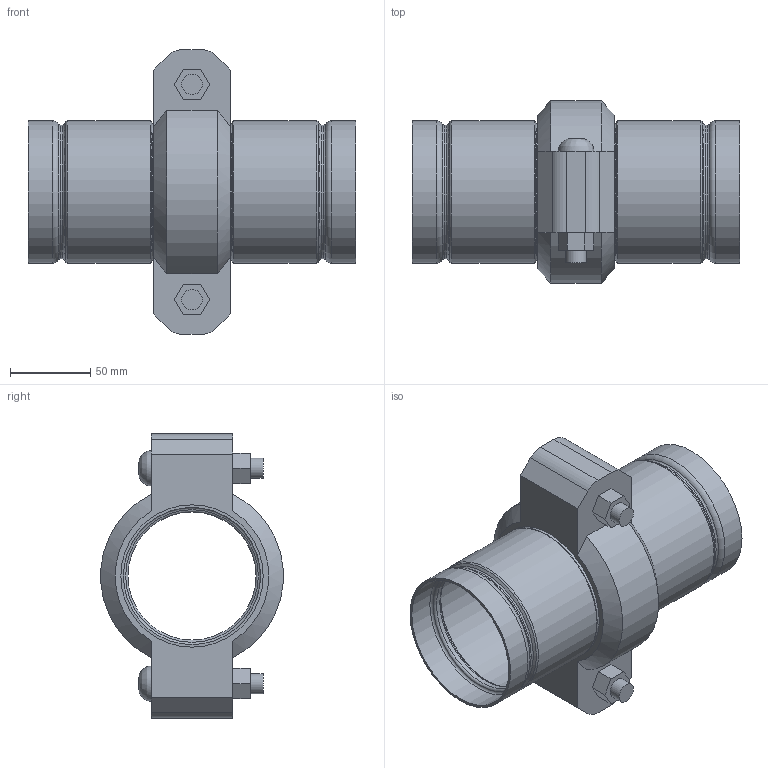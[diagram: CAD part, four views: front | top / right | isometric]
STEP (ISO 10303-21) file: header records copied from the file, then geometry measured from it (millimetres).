
FILE_DESCRIPTION(/* description */ ('VIC STRENGTHIN 100 EXPANSION JOINT 1 COUPLING COMPRESSED STYLE E155 (ST1)','CAx-IF Rec.Pracs.---Representation and Presentation of Product Manufacturing Information (PMI)---4.0---2014-10-13'),/* implementation_level */ '2;1');
FILE_NAME(/* name */ 'C:\Users\Vjadhav\AppData\Roaming\Autodesk\ApplicationPlugins\Victaulic.Temp\A42\Victaulic_SS-StrengThin 100_Expansion Joint_Compressed_1 Coupling_Style E155 (ST1)_3 (80).stp',/* time_stamp */ '2021-07-23T12:24:10+06:00',/* author */ ('kkamble'),/* organization */ ('Victaulic'),/* preprocessor_version */ 'ST-DEVELOPER v17.2',/* originating_system */ 'Autodesk Inventor 2019',/* authorisation */ '');
FILE_SCHEMA (('AP242_MANAGED_MODEL_BASED_3D_ENGINEERING_MIM_LF { 1 0 10303 442 1 1 4 }'));
Length unit declared in the file: inch
Products named in the file (3): E155-03.0; E494G-03.0; 075-03.0
Assembly tree (3 placements, depth 2):
  E155-03.0
    E494G-03.0  x2
    075-03.0
Bounding box: 204.47 x 113.88 x 177.8 mm (x, y, z)
Volume: 426272.7 mm3; surface area: 177183.1 mm2
Topology: 3 solids, 5 shells, 121 faces, 349 edges, 252 vertices
Faces by surface type: plane 46, cylinder 33, torus 32, cone 8, bspline 2
Full cylindrical faces by diameter (mm): 12.7 x4, 14.605 x2, 79.985 x2, 81.737 x2, 83.185 x2, 84.938 x2, 85.7 x6, 88.9 x7
Entity records: 3147 total; most frequent: CARTESIAN_POINT 568, DIRECTION 551, ORIENTED_EDGE 476, EDGE_CURVE 238, AXIS2_PLACEMENT_3D 230, VERTEX_POINT 169, CIRCLE 139, EDGE_LOOP 105
